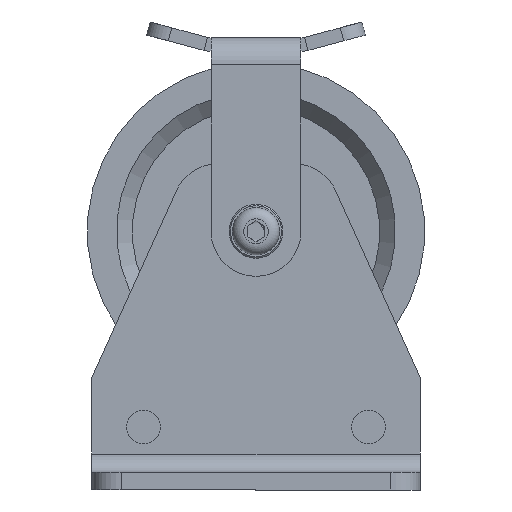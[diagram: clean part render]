
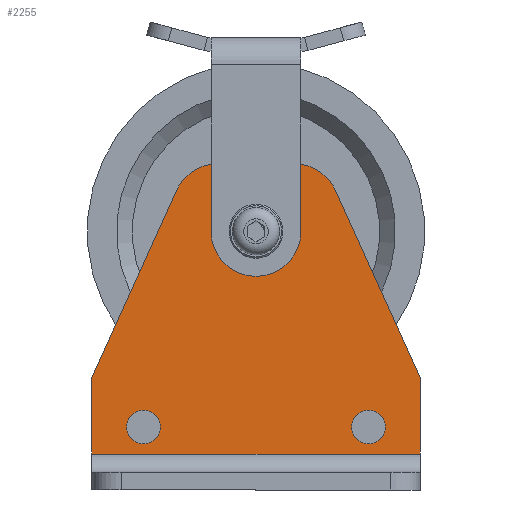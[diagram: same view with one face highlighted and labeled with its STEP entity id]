
A CAD part, front view. The second image highlights one B-rep face of the part: STEP entity #2255.
In plain terms, the highlighted planar face has unit normal (0, -1, 0) as drawn and (0, 0, 1) by its records, which use the part's own axes.
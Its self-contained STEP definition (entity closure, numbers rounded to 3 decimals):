
#133=FACE_BOUND('',#400,.T.);
#134=FACE_BOUND('',#401,.T.);
#135=FACE_BOUND('',#402,.T.);
#169=PLANE('',#2618);
#257=FACE_OUTER_BOUND('',#399,.T.);
#399=EDGE_LOOP('',(#1682,#1683,#1684,#1685,#1686,#1687,#1688,#1689));
#400=EDGE_LOOP('',(#1690));
#401=EDGE_LOOP('',(#1691));
#402=EDGE_LOOP('',(#1692));
#556=LINE('',#3740,#725);
#559=LINE('',#3746,#728);
#567=LINE('',#3780,#736);
#571=LINE('',#3789,#740);
#574=LINE('',#3796,#743);
#575=LINE('',#3798,#744);
#725=VECTOR('',#2971,10.);
#728=VECTOR('',#2976,10.);
#736=VECTOR('',#3010,10.);
#740=VECTOR('',#3020,10.);
#743=VECTOR('',#3029,10.);
#744=VECTOR('',#3032,10.);
#882=CIRCLE('',#2605,7.5);
#883=CIRCLE('',#2607,7.5);
#884=CIRCLE('',#2609,6.3);
#885=CIRCLE('',#2612,20.);
#886=CIRCLE('',#2615,20.);
#1034=VERTEX_POINT('',#3731);
#1035=VERTEX_POINT('',#3735);
#1037=VERTEX_POINT('',#3744);
#1046=VERTEX_POINT('',#3766);
#1047=VERTEX_POINT('',#3770);
#1048=VERTEX_POINT('',#3774);
#1049=VERTEX_POINT('',#3778);
#1050=VERTEX_POINT('',#3779);
#1051=VERTEX_POINT('',#3784);
#1052=VERTEX_POINT('',#3788);
#1053=VERTEX_POINT('',#3792);
#1261=EDGE_CURVE('',#1034,#1035,#556,.T.);
#1264=EDGE_CURVE('',#1037,#1035,#559,.T.);
#1275=EDGE_CURVE('',#1046,#1046,#882,.T.);
#1277=EDGE_CURVE('',#1047,#1047,#883,.T.);
#1279=EDGE_CURVE('',#1048,#1048,#884,.T.);
#1280=EDGE_CURVE('',#1049,#1050,#567,.T.);
#1283=EDGE_CURVE('',#1050,#1051,#885,.T.);
#1285=EDGE_CURVE('',#1051,#1052,#571,.T.);
#1287=EDGE_CURVE('',#1052,#1053,#886,.T.);
#1289=EDGE_CURVE('',#1053,#1037,#574,.T.);
#1290=EDGE_CURVE('',#1034,#1049,#575,.T.);
#1682=ORIENTED_EDGE('',*,*,#1261,.T.);
#1683=ORIENTED_EDGE('',*,*,#1264,.F.);
#1684=ORIENTED_EDGE('',*,*,#1289,.F.);
#1685=ORIENTED_EDGE('',*,*,#1287,.F.);
#1686=ORIENTED_EDGE('',*,*,#1285,.F.);
#1687=ORIENTED_EDGE('',*,*,#1283,.F.);
#1688=ORIENTED_EDGE('',*,*,#1280,.F.);
#1689=ORIENTED_EDGE('',*,*,#1290,.F.);
#1690=ORIENTED_EDGE('',*,*,#1275,.T.);
#1691=ORIENTED_EDGE('',*,*,#1277,.T.);
#1692=ORIENTED_EDGE('',*,*,#1279,.T.);
#2255=ADVANCED_FACE('',(#257,#133,#134,#135),#169,.T.);
#2605=AXIS2_PLACEMENT_3D('',#3768,#2996,#2997);
#2607=AXIS2_PLACEMENT_3D('',#3772,#3001,#3002);
#2609=AXIS2_PLACEMENT_3D('',#3776,#3006,#3007);
#2612=AXIS2_PLACEMENT_3D('',#3785,#3015,#3016);
#2615=AXIS2_PLACEMENT_3D('',#3793,#3024,#3025);
#2618=AXIS2_PLACEMENT_3D('',#3799,#3033,#3034);
#2971=DIRECTION('',(1.,0.,0.));
#2976=DIRECTION('',(0.,-1.,0.));
#2996=DIRECTION('center_axis',(0.,0.,-1.));
#2997=DIRECTION('ref_axis',(-1.,0.,0.));
#3001=DIRECTION('center_axis',(0.,0.,-1.));
#3002=DIRECTION('ref_axis',(-1.,0.,0.));
#3006=DIRECTION('center_axis',(0.,0.,-1.));
#3007=DIRECTION('ref_axis',(-1.,0.,0.));
#3010=DIRECTION('',(0.412,0.911,0.));
#3015=DIRECTION('center_axis',(0.,0.,-1.));
#3016=DIRECTION('ref_axis',(0.,1.,0.));
#3020=DIRECTION('',(1.,0.,0.));
#3024=DIRECTION('center_axis',(0.,0.,-1.));
#3025=DIRECTION('ref_axis',(0.911,0.412,0.));
#3029=DIRECTION('',(0.412,-0.911,0.));
#3032=DIRECTION('',(0.,1.,0.));
#3033=DIRECTION('center_axis',(0.,0.,1.));
#3034=DIRECTION('ref_axis',(1.,0.,0.));
#3731=CARTESIAN_POINT('',(-73.,16.,8.));
#3735=CARTESIAN_POINT('',(73.,16.,8.));
#3740=CARTESIAN_POINT('',(36.5,16.,8.));
#3744=CARTESIAN_POINT('',(73.,50.,8.));
#3746=CARTESIAN_POINT('',(73.,0.,8.));
#3766=CARTESIAN_POINT('',(57.5,28.,8.));
#3768=CARTESIAN_POINT('Origin',(50.,28.,8.));
#3770=CARTESIAN_POINT('',(-42.5,28.,8.));
#3772=CARTESIAN_POINT('Origin',(-50.,28.,8.));
#3774=CARTESIAN_POINT('',(6.3,115.,8.));
#3776=CARTESIAN_POINT('Origin',(0.,115.,8.));
#3778=CARTESIAN_POINT('',(-73.,50.,8.));
#3779=CARTESIAN_POINT('',(-35.32,133.247,8.));
#3780=CARTESIAN_POINT('',(-35.32,133.247,8.));
#3784=CARTESIAN_POINT('',(-17.099,145.,8.));
#3785=CARTESIAN_POINT('Origin',(-17.099,125.,8.));
#3788=CARTESIAN_POINT('',(17.099,145.,8.));
#3789=CARTESIAN_POINT('',(17.099,145.,8.));
#3792=CARTESIAN_POINT('',(35.32,133.247,8.));
#3793=CARTESIAN_POINT('Origin',(17.099,125.,8.));
#3796=CARTESIAN_POINT('',(73.,50.,8.));
#3798=CARTESIAN_POINT('',(-73.,50.,8.));
#3799=CARTESIAN_POINT('Origin',(0.,60.247,8.));
